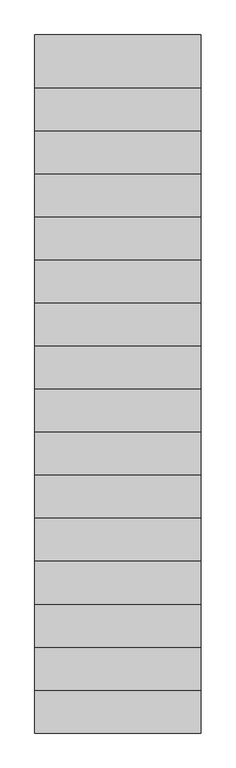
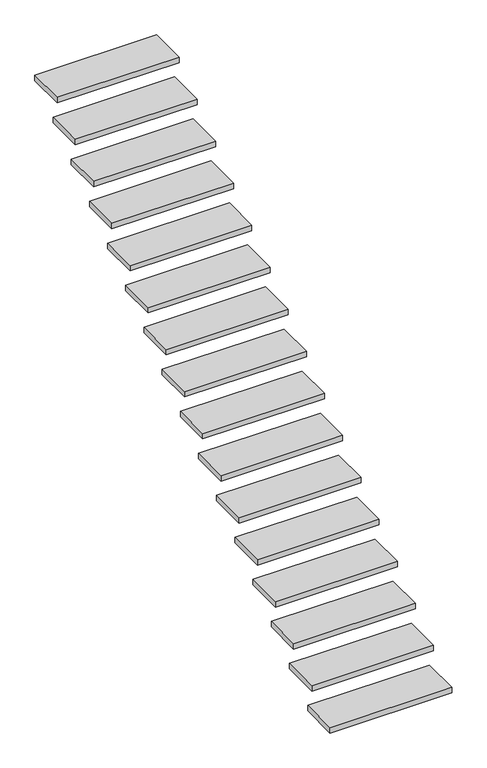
"""IFC4 building model written with IfcOpenShell, lengths in millimetres: stair flight geometry, 24_STR_trede_hout_vuren_40_neus_50."""

import ifcopenshell
import ifcopenshell.guid

model = None  # the IFC model being written
_history = None  # IfcOwnerHistory: only IFC2X3 demands one
_inside = {}  # id of a spatial element -> (the spatial element, [elements in it])
_under = {}  # id of a project, library or spatial element -> (it, [spatial elements below it])
_declared = {}  # id of a project -> (the project, [libraries it declares])
_typed = {}  # id of a type object -> (the type object, [elements of that type])
_made_of = {}  # id of a material, layer set ... -> (it, [elements and type objects made of it])


def new_model(schema):
    """Start an empty IFC model of exactly this schema.

    Asked for "IFC4X3", IfcOpenShell would pick the latest addendum, in which some entities
    have other attributes; the version numbers below select the first issue.
    IFC2X3 requires an IfcOwnerHistory on every rooted entity: one is made here for all.
    """
    global model, _history
    if schema == "IFC4X3":
        model = ifcopenshell.file(schema_version=(4, 3, 0, 0))
    else:
        model = ifcopenshell.file(schema=schema)
    _inside.clear()
    _under.clear()
    _declared.clear()
    _typed.clear()
    _made_of.clear()
    _history = None
    if model.schema == "IFC2X3":
        org = make("IfcOrganization", Name="unknown")
        user = make(
            "IfcPersonAndOrganization",
            ThePerson=make("IfcPerson", FamilyName="unknown"),
            TheOrganization=org,
        )
        app = make(
            "IfcApplication",
            ApplicationDeveloper=org,
            Version="unknown",
            ApplicationFullName="unknown",
            ApplicationIdentifier="unknown",
        )
        _history = make(
            "IfcOwnerHistory",
            OwningUser=user,
            OwningApplication=app,
            ChangeAction="ADDED",
            CreationDate=0,
        )
    return model


def make(cls, **values):
    """One entity of the class cls with the attributes given. An attribute that is None is left unset."""
    return model.create_entity(
        cls, **{name: value for name, value in values.items() if value is not None}
    )


def rooted(cls, **values):
    """An entity with a GlobalId (a new one), such as an element, a storey or a relation."""
    return make(cls, GlobalId=ifcopenshell.guid.new(), OwnerHistory=_history, **values)


def si_unit(unit_type, name, prefix=None):
    """IfcSIUnit, for example si_unit("LENGTHUNIT", "METRE", prefix="MILLI")."""
    return make("IfcSIUnit", UnitType=unit_type, Prefix=prefix, Name=name)


def assignment(units):
    """IfcUnitAssignment: the units of a project."""
    return None if units is None else make("IfcUnitAssignment", Units=units)


def point(xyz):
    """IfcCartesianPoint."""
    return None if xyz is None else make("IfcCartesianPoint", Coordinates=xyz)


def direction(xyz):
    """IfcDirection."""
    return None if xyz is None else make("IfcDirection", DirectionRatios=xyz)


def frame(location, z_axis=None, x_axis=None):
    """IfcAxis2Placement3D, a coordinate frame: its origin and axes. An axis left out is left unset."""
    return make(
        "IfcAxis2Placement3D",
        Location=point(location),
        Axis=direction(z_axis),
        RefDirection=direction(x_axis),
    )


def origin():
    """The frame at (0, 0, 0) with its axes left unset."""
    return frame((0.0, 0.0, 0.0))


def place(relative_to, where):
    """IfcLocalPlacement: puts the frame where relative to a parent placement (None: the world)."""
    return make(
        "IfcLocalPlacement", PlacementRelTo=relative_to, RelativePlacement=where
    )


def context(
    kind, dimensions, precision=None, world=None, true_north=None, identifier=None
):
    """IfcGeometricRepresentationContext, for example the 3D "Model" context."""
    return make(
        "IfcGeometricRepresentationContext",
        ContextIdentifier=identifier,
        ContextType=kind,
        CoordinateSpaceDimension=dimensions,
        Precision=precision,
        WorldCoordinateSystem=world,
        TrueNorth=true_north,
    )


def project(units=None, contexts=None):
    """IfcProject with its units and contexts."""
    return rooted(
        "IfcProject",
        Name="project",
        RepresentationContexts=contexts,
        UnitsInContext=assignment(units),
    )


def spatial(cls, under=None, at=None, **own):
    """A site, building, storey or space (cls), placed at a placement, below another one or the project."""
    s = rooted(cls, ObjectPlacement=at, **own)
    if under is not None:
        _under.setdefault(under.id(), (under, []))[1].append(s)
    return s


def polyline(points):
    """IfcPolyline through the points."""
    return make("IfcPolyline", Points=[point(p) for p in points])


def outline(outer, holes=None, kind="AREA"):
    """IfcArbitraryClosedProfileDef: a profile drawn as a closed curve; with holes, ...WithVoids."""
    if holes is None:
        return make("IfcArbitraryClosedProfileDef", ProfileType=kind, OuterCurve=outer)
    return make(
        "IfcArbitraryProfileDefWithVoids",
        ProfileType=kind,
        OuterCurve=outer,
        InnerCurves=holes,
    )


def extrude(swept, where, along, depth):
    """IfcExtrudedAreaSolid: the profile swept, set in the frame where, extruded along a direction by depth."""
    return make(
        "IfcExtrudedAreaSolid",
        SweptArea=swept,
        Position=where,
        ExtrudedDirection=direction(along),
        Depth=depth,
    )


def shape(context_of_items, identifier, shape_type, items):
    """IfcShapeRepresentation: the items that make up one representation, for example the "Body"."""
    return make(
        "IfcShapeRepresentation",
        ContextOfItems=context_of_items,
        RepresentationIdentifier=identifier,
        RepresentationType=shape_type,
        Items=items,
    )


def source(mapping_origin, context_of_items, identifier, shape_type, items):
    """IfcRepresentationMap: a shape defined once, which mapped items show again and again."""
    return make(
        "IfcRepresentationMap",
        MappingOrigin=mapping_origin,
        MappedRepresentation=shape(context_of_items, identifier, shape_type, items),
    )


def transform(
    local_origin,
    x_axis=None,
    y_axis=None,
    z_axis=None,
    scale=None,
    scale2=None,
    scale3=None,
    uniform=True,
):
    """IfcCartesianTransformationOperator3D, or its non-uniform kind. x_axis, y_axis, z_axis: its Axis1, 2, 3."""
    if uniform:
        return make(
            "IfcCartesianTransformationOperator3D",
            Axis1=direction(x_axis),
            Axis2=direction(y_axis),
            LocalOrigin=point(local_origin),
            Scale=scale,
            Axis3=direction(z_axis),
        )
    return make(
        "IfcCartesianTransformationOperator3DnonUniform",
        Axis1=direction(x_axis),
        Axis2=direction(y_axis),
        LocalOrigin=point(local_origin),
        Scale=scale,
        Axis3=direction(z_axis),
        Scale2=scale2,
        Scale3=scale3,
    )


def mapped(mapping_source, mapping_target):
    """IfcMappedItem: shows the shape of a source again, moved by a transform."""
    return make(
        "IfcMappedItem", MappingSource=mapping_source, MappingTarget=mapping_target
    )


def made_of(thing, what):
    """Note that an element or type object is made of a material, layer set ...; save() writes the relation."""
    if what is not None:
        _made_of.setdefault(what.id(), (what, []))[1].append(thing)
    return thing


def element(
    cls,
    number,
    at=None,
    inside=None,
    cuts=None,
    type_object=None,
    material=None,
    context=None,
    identifier="Body",
    shape_type=None,
    held_by="IfcProductDefinitionShape",
    body=None,
    shapes=None,
    **own,
):
    """One element of the class cls, such as IfcWall. Its Tag is "e" and its number.

    at: its placement. inside: the storey or other place that contains it. cuts: it is an
    opening in that element (IfcRelVoidsElement). A single representation is given by context,
    identifier, shape_type and body (its items); several are given by shapes. held_by: the class
    of the entity that holds the representations. save() writes the other relations.
    """
    e = rooted(cls, Tag="e%d" % number, ObjectPlacement=at, **own)
    if body is not None:
        shapes = [shape(context, identifier, shape_type, body)]
    if shapes is not None:
        e.Representation = make(held_by, Representations=shapes)
    if inside is not None:
        _inside.setdefault(inside.id(), (inside, []))[1].append(e)
    if cuts is not None:
        rooted(
            "IfcRelVoidsElement", RelatingBuildingElement=cuts, RelatedOpeningElement=e
        )
    if type_object is not None:
        _typed.setdefault(type_object.id(), (type_object, []))[1].append(e)
    return made_of(e, material)


def aggregate(whole, parts):
    """IfcRelAggregates: a whole, such as a stair, and the parts it consists of."""
    return rooted("IfcRelAggregates", RelatingObject=whole, RelatedObjects=parts)


def save(model, path):
    """Write the relations noted so far, then the file.

    IfcRelAggregates (storeys below a building ...), IfcRelContainedInSpatialStructure (elements
    in a storey), IfcRelDefinesByType, IfcRelAssociatesMaterial and IfcRelDeclares: one each for
    every whole, place, type object, material and project.
    """
    for whole, parts in _under.values():
        aggregate(whole, parts)
    for where, things in _inside.values():
        rooted(
            "IfcRelContainedInSpatialStructure",
            RelatedElements=things,
            RelatingStructure=where,
        )
    for kind, things in _typed.values():
        rooted("IfcRelDefinesByType", RelatedObjects=things, RelatingType=kind)
    for what, things in _made_of.values():
        rooted("IfcRelAssociatesMaterial", RelatedObjects=things, RelatingMaterial=what)
    for by, libraries in _declared.values():
        rooted("IfcRelDeclares", RelatingContext=by, RelatedDefinitions=libraries)
    model.write(path)


def stair_flight_d911f600(model_context):
    return source(origin(), model_context, "Body", "SweptSolid", [
        extrude(outline(polyline([(23349.8089026, -25054.6322236), (24199.8089026, -25054.6322236), (24199.8089026, -25324.6322236), (23349.8089026, -25324.6322236), (23349.8089026, -25054.6322236)])), frame((0.0, 0.0, 136.4705882), z_axis=(0.0, 0.0, 1.0), x_axis=(1.0, 0.0, 0.0)), (0.0, 0.0, 1.0), 40.0),
        extrude(outline(polyline([(23349.8089026, -24834.6322236), (24199.8089026, -24834.6322236), (24199.8089026, -25104.6322236), (23349.8089026, -25104.6322236), (23349.8089026, -24834.6322236)])), frame((0.0, 0.0, 312.9411765), z_axis=(0.0, 0.0, 1.0), x_axis=(1.0, 0.0, 0.0)), (0.0, 0.0, 1.0), 40.0),
        extrude(outline(polyline([(23349.8089026, -24614.6322236), (24199.8089026, -24614.6322236), (24199.8089026, -24884.6322236), (23349.8089026, -24884.6322236), (23349.8089026, -24614.6322236)])), frame((0.0, 0.0, 489.4117647), z_axis=(0.0, 0.0, 1.0), x_axis=(1.0, 0.0, 0.0)), (0.0, 0.0, 1.0), 40.0),
        extrude(outline(polyline([(23349.8089026, -24394.6322236), (24199.8089026, -24394.6322236), (24199.8089026, -24664.6322236), (23349.8089026, -24664.6322236), (23349.8089026, -24394.6322236)])), frame((0.0, 0.0, 665.8823529), z_axis=(0.0, 0.0, 1.0), x_axis=(1.0, 0.0, 0.0)), (0.0, 0.0, 1.0), 40.0),
        extrude(outline(polyline([(23349.8089026, -24174.6322236), (24199.8089026, -24174.6322236), (24199.8089026, -24444.6322236), (23349.8089026, -24444.6322236), (23349.8089026, -24174.6322236)])), frame((0.0, 0.0, 842.3529412), z_axis=(0.0, 0.0, 1.0), x_axis=(1.0, 0.0, 0.0)), (0.0, 0.0, 1.0), 40.0),
        extrude(outline(polyline([(23349.8089026, -23954.6322236), (24199.8089026, -23954.6322236), (24199.8089026, -24224.6322236), (23349.8089026, -24224.6322236), (23349.8089026, -23954.6322236)])), frame((0.0, 0.0, 1018.8235294), z_axis=(0.0, 0.0, 1.0), x_axis=(1.0, 0.0, 0.0)), (0.0, 0.0, 1.0), 40.0),
        extrude(outline(polyline([(23349.8089026, -23734.6322236), (24199.8089026, -23734.6322236), (24199.8089026, -24004.6322236), (23349.8089026, -24004.6322236), (23349.8089026, -23734.6322236)])), frame((0.0, 0.0, 1195.2941176), z_axis=(0.0, 0.0, 1.0), x_axis=(1.0, 0.0, 0.0)), (0.0, 0.0, 1.0), 40.0),
        extrude(outline(polyline([(23349.8089026, -23514.6322236), (24199.8089026, -23514.6322236), (24199.8089026, -23784.6322236), (23349.8089026, -23784.6322236), (23349.8089026, -23514.6322236)])), frame((0.0, 0.0, 1371.7647059), z_axis=(0.0, 0.0, 1.0), x_axis=(1.0, 0.0, 0.0)), (0.0, 0.0, 1.0), 40.0),
        extrude(outline(polyline([(23349.8089026, -23294.6322236), (24199.8089026, -23294.6322236), (24199.8089026, -23564.6322236), (23349.8089026, -23564.6322236), (23349.8089026, -23294.6322236)])), frame((0.0, 0.0, 1548.2352941), z_axis=(0.0, 0.0, 1.0), x_axis=(1.0, 0.0, 0.0)), (0.0, 0.0, 1.0), 40.0),
        extrude(outline(polyline([(23349.8089026, -23074.6322236), (24199.8089026, -23074.6322236), (24199.8089026, -23344.6322236), (23349.8089026, -23344.6322236), (23349.8089026, -23074.6322236)])), frame((0.0, 0.0, 1724.7058824), z_axis=(0.0, 0.0, 1.0), x_axis=(1.0, 0.0, 0.0)), (0.0, 0.0, 1.0), 40.0),
        extrude(outline(polyline([(23349.8089026, -22854.6322236), (24199.8089026, -22854.6322236), (24199.8089026, -23124.6322236), (23349.8089026, -23124.6322236), (23349.8089026, -22854.6322236)])), frame((0.0, 0.0, 1901.1764706), z_axis=(0.0, 0.0, 1.0), x_axis=(1.0, 0.0, 0.0)), (0.0, 0.0, 1.0), 40.0),
        extrude(outline(polyline([(23349.8089026, -22634.6322236), (24199.8089026, -22634.6322236), (24199.8089026, -22904.6322236), (23349.8089026, -22904.6322236), (23349.8089026, -22634.6322236)])), frame((0.0, 0.0, 2077.6470588), z_axis=(0.0, 0.0, 1.0), x_axis=(1.0, 0.0, 0.0)), (0.0, 0.0, 1.0), 40.0),
        extrude(outline(polyline([(23349.8089026, -22414.6322236), (24199.8089026, -22414.6322236), (24199.8089026, -22684.6322236), (23349.8089026, -22684.6322236), (23349.8089026, -22414.6322236)])), frame((0.0, 0.0, 2254.1176471), z_axis=(0.0, 0.0, 1.0), x_axis=(1.0, 0.0, 0.0)), (0.0, 0.0, 1.0), 40.0),
        extrude(outline(polyline([(23349.8089026, -22194.6322236), (24199.8089026, -22194.6322236), (24199.8089026, -22464.6322236), (23349.8089026, -22464.6322236), (23349.8089026, -22194.6322236)])), frame((0.0, 0.0, 2430.5882353), z_axis=(0.0, 0.0, 1.0), x_axis=(1.0, 0.0, 0.0)), (0.0, 0.0, 1.0), 40.0),
        extrude(outline(polyline([(23349.8089026, -21974.6322236), (24199.8089026, -21974.6322236), (24199.8089026, -22244.6322236), (23349.8089026, -22244.6322236), (23349.8089026, -21974.6322236)])), frame((0.0, 0.0, 2607.0588235), z_axis=(0.0, 0.0, 1.0), x_axis=(1.0, 0.0, 0.0)), (0.0, 0.0, 1.0), 40.0),
        extrude(outline(polyline([(23349.8089026, -21754.6322236), (24199.8089026, -21754.6322236), (24199.8089026, -22024.6322236), (23349.8089026, -22024.6322236), (23349.8089026, -21754.6322236)])), frame((0.0, 0.0, 2783.5294118), z_axis=(0.0, 0.0, 1.0), x_axis=(1.0, 0.0, 0.0)), (0.0, 0.0, 1.0), 40.0),
    ])


if __name__ == "__main__":
    model = new_model("IFC4")
    model_context = context("Model", 3, world=origin())
    ifc_project = project(units=[si_unit("LENGTHUNIT", "METRE", prefix="MILLI")], contexts=[model_context])
    site = spatial("IfcSite", under=ifc_project)
    building = spatial("IfcBuilding", under=site)
    placement = place(None, origin())
    stair_flight_shape = stair_flight_d911f600(model_context)
    element("IfcStairFlight", 1, ObjectType="24_STR_trede_hout_vuren_40_neus_50", at=placement, inside=building, context=model_context, shape_type="MappedRepresentation", body=[
        mapped(stair_flight_shape, transform((0.0, 0.0, 0.0), x_axis=(1.0, 0.0, 0.0), y_axis=(0.0, 1.0, 0.0), z_axis=(0.0, 0.0, 1.0))),
    ])
    save(model, "model.ifc")
